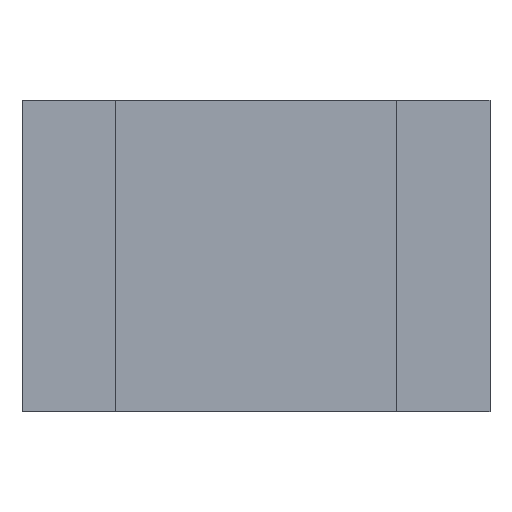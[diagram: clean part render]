
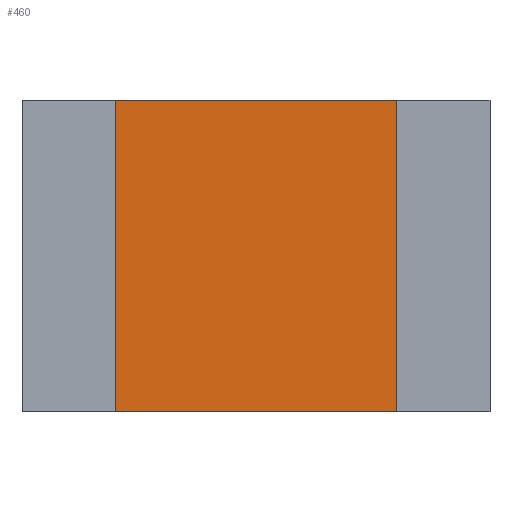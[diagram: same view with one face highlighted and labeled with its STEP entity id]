
A CAD part, top view. The second image highlights one B-rep face of the part: STEP entity #460.
In plain terms, the highlighted planar face has unit normal (0, 0, 1).
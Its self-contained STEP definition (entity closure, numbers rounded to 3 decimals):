
#42=FACE_OUTER_BOUND('',#68,.T.);
#68=EDGE_LOOP('',(#399,#400,#401,#402));
#119=LINE('',#729,#179);
#123=LINE('',#737,#183);
#128=LINE('',#747,#188);
#129=LINE('',#748,#189);
#179=VECTOR('',#603,10.);
#183=VECTOR('',#609,10.);
#188=VECTOR('',#618,10.);
#189=VECTOR('',#619,10.);
#223=VERTEX_POINT('',#727);
#224=VERTEX_POINT('',#728);
#227=VERTEX_POINT('',#736);
#230=VERTEX_POINT('',#746);
#279=EDGE_CURVE('',#223,#224,#119,.T.);
#283=EDGE_CURVE('',#227,#224,#123,.T.);
#288=EDGE_CURVE('',#230,#223,#128,.T.);
#289=EDGE_CURVE('',#230,#227,#129,.T.);
#399=ORIENTED_EDGE('',*,*,#288,.F.);
#400=ORIENTED_EDGE('',*,*,#289,.T.);
#401=ORIENTED_EDGE('',*,*,#283,.T.);
#402=ORIENTED_EDGE('',*,*,#279,.F.);
#434=PLANE('',#508);
#460=ADVANCED_FACE('',(#42),#434,.T.);
#508=AXIS2_PLACEMENT_3D('',#745,#616,#617);
#603=DIRECTION('',(1.,0.,0.));
#609=DIRECTION('',(0.,1.,0.));
#616=DIRECTION('center_axis',(0.,0.,1.));
#617=DIRECTION('ref_axis',(1.,0.,0.));
#618=DIRECTION('',(0.,1.,0.));
#619=DIRECTION('',(1.,0.,0.));
#727=CARTESIAN_POINT('',(0.,1.27,0.49));
#728=CARTESIAN_POINT('',(1.9,1.27,0.49));
#729=CARTESIAN_POINT('',(0.,1.27,0.49));
#736=CARTESIAN_POINT('',(1.9,0.,0.49));
#737=CARTESIAN_POINT('',(1.9,0.,0.49));
#745=CARTESIAN_POINT('Origin',(0.95,-0.001,0.49));
#746=CARTESIAN_POINT('',(0.,0.,0.49));
#747=CARTESIAN_POINT('',(0.,0.,0.49));
#748=CARTESIAN_POINT('',(0.,0.,0.49));
